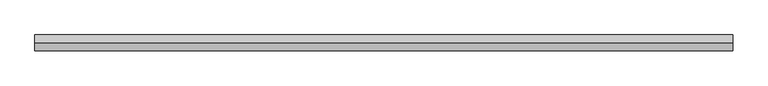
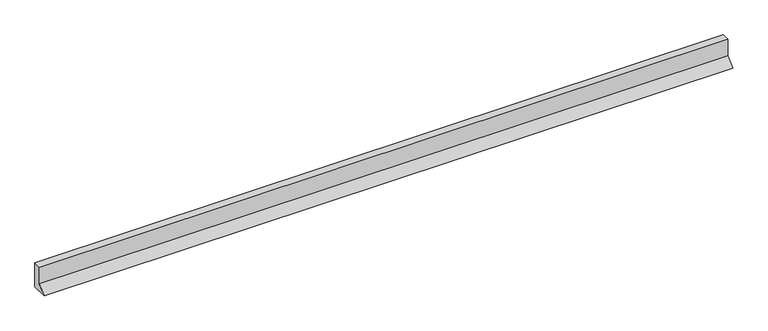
"""IFC4 building model written with IfcOpenShell, lengths in millimetres: plate geometry, ATELIERS 3S_EPURE CDB 200_HORIZONTAL : AZURO."""

from ifc_helpers import new_model, si_unit, frame, origin, place, context, project, spatial, polyline, outline, extrude, source, transform, mapped, element, save


def plate_7d20323a(model_context):
    return source(origin(), model_context, "Body", "SweptSolid", [
        extrude(outline(polyline([(-30.0201339, 31.7071152), (-30.0201339, 100.0), (0.0, 100.0), (0.0, 0.0), (-61.727249, 0.0), (-30.0201339, 31.7071152)])), frame((-1347.25, 0.0, 0.0), z_axis=(1.0, 0.0, 0.0), x_axis=(0.0, 1.0, 0.0)), (0.0, 0.0, 1.0), 2694.5),
    ])


if __name__ == "__main__":
    model = new_model("IFC4")
    model_context = context("Model", 3, world=origin())
    ifc_project = project(units=[si_unit("LENGTHUNIT", "METRE", prefix="MILLI")], contexts=[model_context])
    site = spatial("IfcSite", under=ifc_project)
    building = spatial("IfcBuilding", under=site)
    placement = place(None, origin())
    plate_shape = plate_7d20323a(model_context)
    element("IfcPlate", 1, ObjectType="ATELIERS 3S_EPURE CDB 200_HORIZONTAL : AZURO", at=placement, inside=building, context=model_context, shape_type="MappedRepresentation", body=[
        mapped(plate_shape, transform((0.0, 0.0, 0.0), x_axis=(1.0, 0.0, 0.0), y_axis=(0.0, 1.0, 0.0), z_axis=(0.0, 0.0, 1.0))),
    ])
    save(model, "model.ifc")
